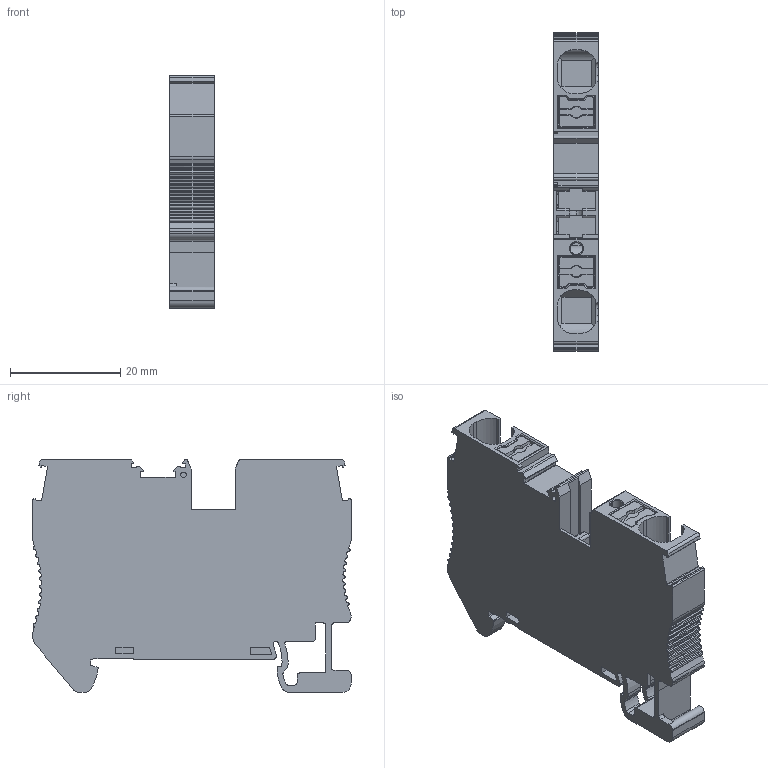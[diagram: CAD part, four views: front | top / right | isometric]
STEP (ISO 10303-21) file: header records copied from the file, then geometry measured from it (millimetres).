
FILE_DESCRIPTION((''),'2;1');
FILE_NAME('UPT-6PEASSY','2024-03-29T15:38:32',('Administrator'),(''),'CREO PARAMETRIC BY PTC INC, 2018050','CREO PARAMETRIC BY PTC INC, 2018050','');
FILE_SCHEMA(('CONFIG_CONTROL_DESIGN'));
Length unit declared in the file: millimetre
Products named in the file (1): UPT-6PEASSY
Bounding box: 8.15 x 57.73 x 42.2 mm (x, y, z)
Volume: 12933.6 mm3; surface area: 9323.5 mm2
Topology: 1 solids, 4 shells, 734 faces, 2115 edges, 1392 vertices
Faces by surface type: plane 378, cylinder 335, bspline 13, cone 4, extrusion 2, torus 2
Entity records: 27260 total; most frequent: CARTESIAN_POINT 7684, ORIENTED_EDGE 4230, DIRECTION 4016, EDGE_CURVE 2115, VERTEX_POINT 1392, VECTOR 1352, LINE 1350, AXIS2_PLACEMENT_3D 1332
